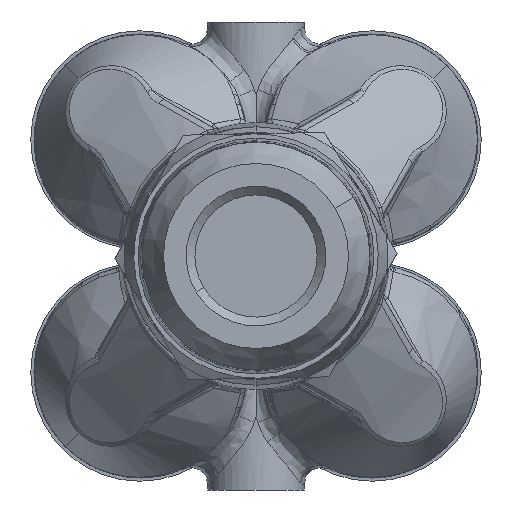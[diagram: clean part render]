
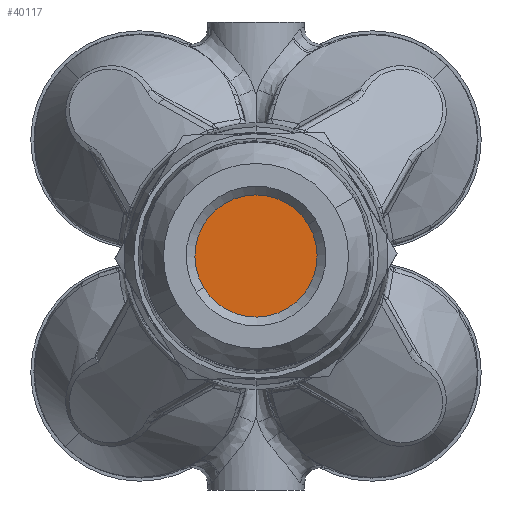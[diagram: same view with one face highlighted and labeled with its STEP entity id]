
A CAD part, front view. The second image highlights one B-rep face of the part: STEP entity #40117.
In plain terms, the highlighted planar face has unit normal (0, -1, 0).
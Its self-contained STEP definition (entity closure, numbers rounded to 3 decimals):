
#3532 = FACE_OUTER_BOUND ( 'NONE', #29145, .T. ) ;
#9439 = EDGE_CURVE ( 'NONE', #24734, #24740, #44318, .T. ) ;
#17757 = AXIS2_PLACEMENT_3D ( 'NONE', #27614, #27615, #27616 ) ;
#24734 = VERTEX_POINT ( 'NONE', #33658 ) ;
#24740 = VERTEX_POINT ( 'NONE', #33664 ) ;
#24963 = ORIENTED_EDGE ( 'NONE', *, *, #9439, .F. ) ;
#24965 = ORIENTED_EDGE ( 'NONE', *, *, #25835, .F. ) ;
#25835 = EDGE_CURVE ( 'NONE', #24740, #24734, #48366, .T. ) ;
#27614 = CARTESIAN_POINT ( 'NONE',  ( 0., -9.8, 0. ) ) ;
#27615 = DIRECTION ( 'NONE',  ( 0., 1., 0. ) ) ;
#27616 = DIRECTION ( 'NONE',  ( 0., 0., -1. ) ) ;
#29145 = EDGE_LOOP ( 'NONE', ( #24963, #24965 ) ) ;
#33658 = CARTESIAN_POINT ( 'NONE',  ( -2.997, -9.8, -1.808 ) ) ;
#33664 = CARTESIAN_POINT ( 'NONE',  ( 2.997, -9.8, 1.808 ) ) ;
#33847 = CARTESIAN_POINT ( 'NONE',  ( 0., -9.8, 0. ) ) ;
#33848 = DIRECTION ( 'NONE',  ( 0., 1., 0. ) ) ;
#33849 = DIRECTION ( 'NONE',  ( 0., 0., -1. ) ) ;
#40117 = ADVANCED_FACE ( 'NONE', ( #3532 ), #43521, .T. ) ;
#42549 = AXIS2_PLACEMENT_3D ( 'NONE', #43529, #43530, #43531 ) ;
#43521 = PLANE ( 'NONE',  #42549 ) ;
#43529 = CARTESIAN_POINT ( 'NONE',  ( 0., -9.8, 0. ) ) ;
#43530 = DIRECTION ( 'NONE',  ( 0., -1., 0. ) ) ;
#43531 = DIRECTION ( 'NONE',  ( 0., 0., -1. ) ) ;
#44318 = CIRCLE ( 'NONE', #17757, 3.5 ) ;
#48366 = CIRCLE ( 'NONE', #55988, 3.5 ) ;
#55988 = AXIS2_PLACEMENT_3D ( 'NONE', #33847, #33848, #33849 ) ;
